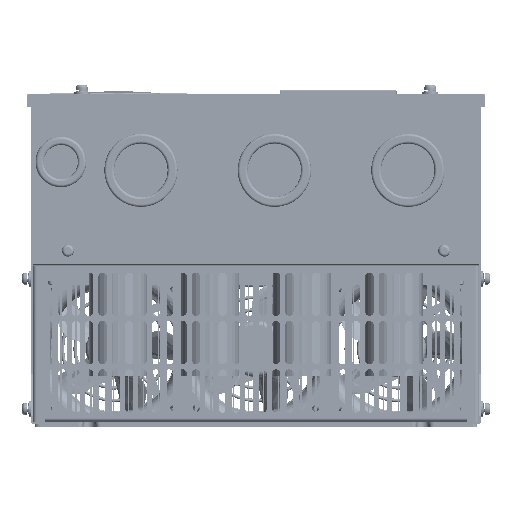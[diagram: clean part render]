
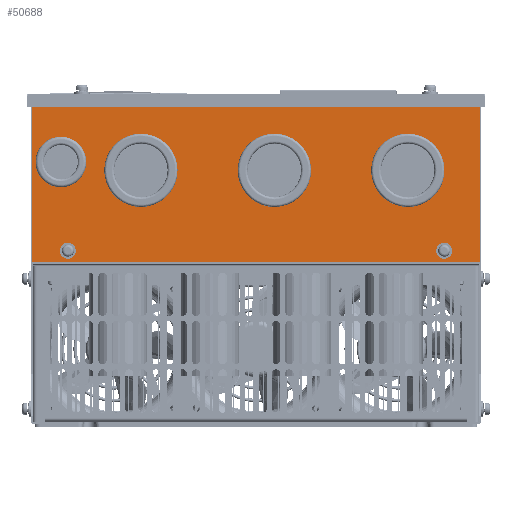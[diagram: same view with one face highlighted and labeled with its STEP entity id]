
A CAD part, front view. The second image highlights one B-rep face of the part: STEP entity #50688.
In plain terms, the highlighted planar face has unit normal (0, -1, 0).
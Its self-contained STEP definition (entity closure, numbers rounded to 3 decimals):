
#49868=DIRECTION('',(-1.,0.,0.));
#49869=VECTOR('',#49868,7.);
#49870=CARTESIAN_POINT('',(134.,0.,195.));
#49871=LINE('',#49870,#49869);
#49904=CARTESIAN_POINT('',(-69.,0.,152.));
#49905=DIRECTION('',(0.,-1.,0.));
#49906=DIRECTION('',(-1.,0.,0.));
#49907=AXIS2_PLACEMENT_3D('',#49904,#49905,#49906);
#49909=CARTESIAN_POINT('',(-69.,0.,152.));
#49910=DIRECTION('',(0.,-1.,0.));
#49911=DIRECTION('',(1.,0.,0.));
#49912=AXIS2_PLACEMENT_3D('',#49909,#49910,#49911);
#49914=CARTESIAN_POINT('',(11.,0.,152.));
#49915=DIRECTION('',(0.,-1.,0.));
#49916=DIRECTION('',(-1.,0.,0.));
#49917=AXIS2_PLACEMENT_3D('',#49914,#49915,#49916);
#49919=CARTESIAN_POINT('',(11.,0.,152.));
#49920=DIRECTION('',(0.,-1.,0.));
#49921=DIRECTION('',(1.,0.,0.));
#49922=AXIS2_PLACEMENT_3D('',#49919,#49920,#49921);
#49924=CARTESIAN_POINT('',(91.,0.,152.));
#49925=DIRECTION('',(0.,-1.,0.));
#49926=DIRECTION('',(-1.,0.,0.));
#49927=AXIS2_PLACEMENT_3D('',#49924,#49925,#49926);
#49929=CARTESIAN_POINT('',(91.,0.,152.));
#49930=DIRECTION('',(0.,-1.,0.));
#49931=DIRECTION('',(1.,0.,0.));
#49932=AXIS2_PLACEMENT_3D('',#49929,#49930,#49931);
#49934=CARTESIAN_POINT('',(-117.,0.,157.));
#49935=DIRECTION('',(0.,-1.,0.));
#49936=DIRECTION('',(-1.,0.,0.));
#49937=AXIS2_PLACEMENT_3D('',#49934,#49935,#49936);
#49939=CARTESIAN_POINT('',(-117.,0.,157.));
#49940=DIRECTION('',(0.,-1.,0.));
#49941=DIRECTION('',(1.,0.,0.));
#49942=AXIS2_PLACEMENT_3D('',#49939,#49940,#49941);
#49944=DIRECTION('',(0.,0.,1.));
#49945=VECTOR('',#49944,2.);
#49946=CARTESIAN_POINT('',(110.3,0.,102.8));
#49947=LINE('',#49946,#49945);
#49948=CARTESIAN_POINT('',(112.8,0.,102.8));
#49949=DIRECTION('',(0.,-1.,0.));
#49950=DIRECTION('',(-1.,0.,0.));
#49951=AXIS2_PLACEMENT_3D('',#49948,#49949,#49950);
#49953=DIRECTION('',(0.,0.,-1.));
#49954=VECTOR('',#49953,2.);
#49955=CARTESIAN_POINT('',(115.3,0.,104.8));
#49956=LINE('',#49955,#49954);
#49957=CARTESIAN_POINT('',(112.8,0.,104.8));
#49958=DIRECTION('',(0.,-1.,0.));
#49959=DIRECTION('',(1.,0.,0.));
#49960=AXIS2_PLACEMENT_3D('',#49957,#49958,#49959);
#49962=DIRECTION('',(0.,0.,1.));
#49963=VECTOR('',#49962,2.);
#49964=CARTESIAN_POINT('',(-115.3,0.,102.8));
#49965=LINE('',#49964,#49963);
#49966=CARTESIAN_POINT('',(-112.8,0.,102.8));
#49967=DIRECTION('',(0.,-1.,0.));
#49968=DIRECTION('',(-1.,0.,0.));
#49969=AXIS2_PLACEMENT_3D('',#49966,#49967,#49968);
#49971=DIRECTION('',(0.,0.,-1.));
#49972=VECTOR('',#49971,2.);
#49973=CARTESIAN_POINT('',(-110.3,0.,104.8));
#49974=LINE('',#49973,#49972);
#49975=CARTESIAN_POINT('',(-112.8,0.,104.8));
#49976=DIRECTION('',(0.,-1.,0.));
#49977=DIRECTION('',(1.,0.,0.));
#49978=AXIS2_PLACEMENT_3D('',#49975,#49976,#49977);
#49980=DIRECTION('',(1.,0.,0.));
#49981=VECTOR('',#49980,0.2);
#49982=CARTESIAN_POINT('',(-134.,0.,97.));
#49983=LINE('',#49982,#49981);
#49984=DIRECTION('',(1.,0.,0.));
#49985=VECTOR('',#49984,7.);
#49986=CARTESIAN_POINT('',(-134.,0.,196.));
#49987=LINE('',#49986,#49985);
#49988=DIRECTION('',(0.,0.,-1.));
#49989=VECTOR('',#49988,0.6);
#49990=CARTESIAN_POINT('',(-127.,0.,196.));
#49991=LINE('',#49990,#49989);
#49992=DIRECTION('',(0.,0.,1.));
#49993=VECTOR('',#49992,0.4);
#49994=CARTESIAN_POINT('',(127.,0.,195.));
#49995=LINE('',#49994,#49993);
#49996=DIRECTION('',(0.,0.,1.));
#49997=VECTOR('',#49996,98.);
#49998=CARTESIAN_POINT('',(134.,0.,97.));
#49999=LINE('',#49998,#49997);
#50000=DIRECTION('',(1.,0.,0.));
#50001=VECTOR('',#50000,0.2);
#50002=CARTESIAN_POINT('',(133.8,0.,97.));
#50003=LINE('',#50002,#50001);
#50279=DIRECTION('',(-1.,0.,0.));
#50280=VECTOR('',#50279,254.);
#50281=CARTESIAN_POINT('',(127.,0.,195.4));
#50282=LINE('',#50281,#50280);
#50300=DIRECTION('',(0.,0.,-1.));
#50301=VECTOR('',#50300,99.);
#50302=CARTESIAN_POINT('',(-134.,0.,196.));
#50303=LINE('',#50302,#50301);
#50348=DIRECTION('',(-1.,0.,0.));
#50349=VECTOR('',#50348,267.6);
#50350=CARTESIAN_POINT('',(133.8,0.,97.));
#50351=LINE('',#50350,#50349);
#50380=CARTESIAN_POINT('',(134.,0.,97.));
#50381=CARTESIAN_POINT('',(134.,0.,195.));
#50382=VERTEX_POINT('',#50380);
#50383=VERTEX_POINT('',#50381);
#50388=CARTESIAN_POINT('',(-134.,0.,97.));
#50390=VERTEX_POINT('',#50388);
#50392=CARTESIAN_POINT('',(127.,0.,195.));
#50394=VERTEX_POINT('',#50392);
#50404=CARTESIAN_POINT('',(127.,0.,195.4));
#50405=VERTEX_POINT('',#50404);
#50406=CARTESIAN_POINT('',(-127.,0.,195.4));
#50407=VERTEX_POINT('',#50406);
#50420=CARTESIAN_POINT('',(-88.5,0.,152.));
#50421=CARTESIAN_POINT('',(-49.5,0.,152.));
#50422=VERTEX_POINT('',#50420);
#50423=VERTEX_POINT('',#50421);
#50428=CARTESIAN_POINT('',(-8.5,0.,152.));
#50429=CARTESIAN_POINT('',(30.5,0.,152.));
#50430=VERTEX_POINT('',#50428);
#50431=VERTEX_POINT('',#50429);
#50432=CARTESIAN_POINT('',(71.5,0.,152.));
#50433=CARTESIAN_POINT('',(110.5,0.,152.));
#50434=VERTEX_POINT('',#50432);
#50435=VERTEX_POINT('',#50433);
#50444=CARTESIAN_POINT('',(-129.25,0.,157.));
#50445=CARTESIAN_POINT('',(-104.75,0.,157.));
#50446=VERTEX_POINT('',#50444);
#50447=VERTEX_POINT('',#50445);
#50468=CARTESIAN_POINT('',(-134.,0.,196.));
#50469=CARTESIAN_POINT('',(-127.,0.,196.));
#50470=VERTEX_POINT('',#50468);
#50471=VERTEX_POINT('',#50469);
#50492=CARTESIAN_POINT('',(133.8,0.,97.));
#50493=VERTEX_POINT('',#50492);
#50494=CARTESIAN_POINT('',(-133.8,0.,97.));
#50495=VERTEX_POINT('',#50494);
#50500=CARTESIAN_POINT('',(110.3,0.,102.8));
#50501=CARTESIAN_POINT('',(110.3,0.,104.8));
#50502=VERTEX_POINT('',#50500);
#50503=VERTEX_POINT('',#50501);
#50504=CARTESIAN_POINT('',(115.3,0.,104.8));
#50505=VERTEX_POINT('',#50504);
#50506=CARTESIAN_POINT('',(115.3,0.,102.8));
#50507=VERTEX_POINT('',#50506);
#50516=CARTESIAN_POINT('',(-115.3,0.,102.8));
#50517=CARTESIAN_POINT('',(-115.3,0.,104.8));
#50518=VERTEX_POINT('',#50516);
#50519=VERTEX_POINT('',#50517);
#50520=CARTESIAN_POINT('',(-110.3,0.,104.8));
#50521=VERTEX_POINT('',#50520);
#50522=CARTESIAN_POINT('',(-110.3,0.,102.8));
#50523=VERTEX_POINT('',#50522);
#50619=CARTESIAN_POINT('',(0.,0.,0.));
#50620=DIRECTION('',(0.,-1.,0.));
#50621=DIRECTION('',(1.,0.,0.));
#50622=AXIS2_PLACEMENT_3D('',#50619,#50620,#50621);
#50623=PLANE('',#50622);
#50625=ORIENTED_EDGE('',*,*,#50624,.F.);
#50627=ORIENTED_EDGE('',*,*,#50626,.F.);
#50629=ORIENTED_EDGE('',*,*,#50628,.T.);
#50631=ORIENTED_EDGE('',*,*,#50630,.T.);
#50633=ORIENTED_EDGE('',*,*,#50632,.F.);
#50634=ORIENTED_EDGE('',*,*,#50609,.F.);
#50635=ORIENTED_EDGE('',*,*,#50555,.F.);
#50637=ORIENTED_EDGE('',*,*,#50636,.F.);
#50639=ORIENTED_EDGE('',*,*,#50638,.F.);
#50641=ORIENTED_EDGE('',*,*,#50640,.T.);
#50642=EDGE_LOOP('',(#50625,#50627,#50629,#50631,#50633,#50634,#50635,#50637,
#50639,#50641));
#50643=FACE_OUTER_BOUND('',#50642,.F.);
#50645=ORIENTED_EDGE('',*,*,#50644,.T.);
#50647=ORIENTED_EDGE('',*,*,#50646,.T.);
#50648=EDGE_LOOP('',(#50645,#50647));
#50649=FACE_BOUND('',#50648,.F.);
#50651=ORIENTED_EDGE('',*,*,#50650,.T.);
#50653=ORIENTED_EDGE('',*,*,#50652,.T.);
#50654=EDGE_LOOP('',(#50651,#50653));
#50655=FACE_BOUND('',#50654,.F.);
#50657=ORIENTED_EDGE('',*,*,#50656,.T.);
#50659=ORIENTED_EDGE('',*,*,#50658,.T.);
#50660=EDGE_LOOP('',(#50657,#50659));
#50661=FACE_BOUND('',#50660,.F.);
#50663=ORIENTED_EDGE('',*,*,#50662,.F.);
#50665=ORIENTED_EDGE('',*,*,#50664,.T.);
#50667=ORIENTED_EDGE('',*,*,#50666,.F.);
#50669=ORIENTED_EDGE('',*,*,#50668,.T.);
#50670=EDGE_LOOP('',(#50663,#50665,#50667,#50669));
#50671=FACE_BOUND('',#50670,.F.);
#50673=ORIENTED_EDGE('',*,*,#50672,.F.);
#50675=ORIENTED_EDGE('',*,*,#50674,.T.);
#50677=ORIENTED_EDGE('',*,*,#50676,.F.);
#50679=ORIENTED_EDGE('',*,*,#50678,.T.);
#50680=EDGE_LOOP('',(#50673,#50675,#50677,#50679));
#50681=FACE_BOUND('',#50680,.F.);
#50683=ORIENTED_EDGE('',*,*,#50682,.T.);
#50685=ORIENTED_EDGE('',*,*,#50684,.T.);
#50686=EDGE_LOOP('',(#50683,#50685));
#50687=FACE_BOUND('',#50686,.F.);
#50688=ADVANCED_FACE('',(#50643,#50649,#50655,#50661,#50671,#50681,#50687),
#50623,.T.);
#49908=CIRCLE('',#49907,19.5);
#49913=CIRCLE('',#49912,19.5);
#49918=CIRCLE('',#49917,19.5);
#49923=CIRCLE('',#49922,19.5);
#49928=CIRCLE('',#49927,19.5);
#49933=CIRCLE('',#49932,19.5);
#49938=CIRCLE('',#49937,12.25);
#49943=CIRCLE('',#49942,12.25);
#49952=CIRCLE('',#49951,2.5);
#49961=CIRCLE('',#49960,2.5);
#49970=CIRCLE('',#49969,2.5);
#49979=CIRCLE('',#49978,2.5);
#50555=EDGE_CURVE('',#50383,#50394,#49871,.T.);
#50609=EDGE_CURVE('',#50394,#50405,#49995,.T.);
#50624=EDGE_CURVE('',#50390,#50495,#49983,.T.);
#50626=EDGE_CURVE('',#50470,#50390,#50303,.T.);
#50628=EDGE_CURVE('',#50470,#50471,#49987,.T.);
#50630=EDGE_CURVE('',#50471,#50407,#49991,.T.);
#50632=EDGE_CURVE('',#50405,#50407,#50282,.T.);
#50636=EDGE_CURVE('',#50382,#50383,#49999,.T.);
#50638=EDGE_CURVE('',#50493,#50382,#50003,.T.);
#50640=EDGE_CURVE('',#50493,#50495,#50351,.T.);
#50644=EDGE_CURVE('',#50430,#50431,#49918,.T.);
#50646=EDGE_CURVE('',#50431,#50430,#49923,.T.);
#50650=EDGE_CURVE('',#50434,#50435,#49928,.T.);
#50652=EDGE_CURVE('',#50435,#50434,#49933,.T.);
#50656=EDGE_CURVE('',#50446,#50447,#49938,.T.);
#50658=EDGE_CURVE('',#50447,#50446,#49943,.T.);
#50662=EDGE_CURVE('',#50502,#50503,#49947,.T.);
#50664=EDGE_CURVE('',#50502,#50507,#49952,.T.);
#50666=EDGE_CURVE('',#50505,#50507,#49956,.T.);
#50668=EDGE_CURVE('',#50505,#50503,#49961,.T.);
#50672=EDGE_CURVE('',#50518,#50519,#49965,.T.);
#50674=EDGE_CURVE('',#50518,#50523,#49970,.T.);
#50676=EDGE_CURVE('',#50521,#50523,#49974,.T.);
#50678=EDGE_CURVE('',#50521,#50519,#49979,.T.);
#50682=EDGE_CURVE('',#50422,#50423,#49908,.T.);
#50684=EDGE_CURVE('',#50423,#50422,#49913,.T.);
